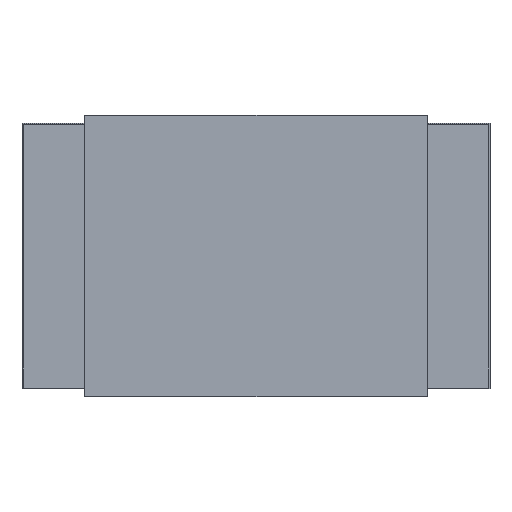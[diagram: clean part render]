
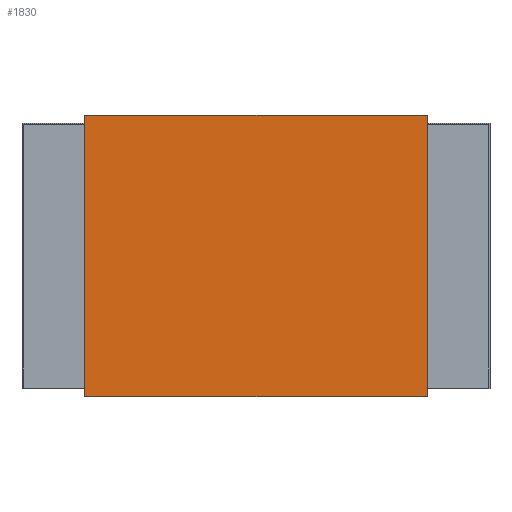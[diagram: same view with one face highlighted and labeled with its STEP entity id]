
A CAD part, left-side view. The second image highlights one B-rep face of the part: STEP entity #1830.
In plain terms, the highlighted planar face has unit normal (-1, 0, 0).
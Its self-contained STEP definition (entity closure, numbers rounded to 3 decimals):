
#1745=CARTESIAN_POINT('',(-1.054,-0.495,0.813));
#1744=VERTEX_POINT('',#1745);
#1763=CARTESIAN_POINT('',(-1.054,0.495,0.813));
#1762=VERTEX_POINT('',#1763);
#1771=EDGE_CURVE('',#1744,#1762,#1776,.T.);
#1776=LINE('',#1745,#1778);
#1778=VECTOR('',#1779,0.991);
#1779=DIRECTION('',(0.0,1.0,0.0));
#1830=ADVANCED_FACE('',(#1836),#1831,.T.);
#1831=PLANE('',#1832);
#1832=AXIS2_PLACEMENT_3D('',#1833,#1834,#1835);
#1833=CARTESIAN_POINT('',(-1.054,0.495,0.0));
#1834=DIRECTION('',(-1.0,0.0,0.0));
#1835=DIRECTION('',(0.,0.,1.));
#1836=FACE_OUTER_BOUND('',#1837,.T.);
#1837=EDGE_LOOP('',(#1838,#1848,#1858,#1868));
#1841=CARTESIAN_POINT('',(-1.054,-0.495,0.0));
#1840=VERTEX_POINT('',#1841);
#1843=CARTESIAN_POINT('',(-1.054,0.495,0.0));
#1842=VERTEX_POINT('',#1843);
#1839=EDGE_CURVE('',#1840,#1842,#1844,.T.);
#1844=LINE('',#1841,#1846);
#1846=VECTOR('',#1847,0.991);
#1847=DIRECTION('',(0.0,1.0,0.0));
#1838=ORIENTED_EDGE('',*,*,#1839,.F.);
#1849=EDGE_CURVE('',#1744,#1840,#1854,.T.);
#1854=LINE('',#1745,#1856);
#1856=VECTOR('',#1857,0.813);
#1857=DIRECTION('',(0.0,0.0,-1.0));
#1848=ORIENTED_EDGE('',*,*,#1849,.F.);
#1858=ORIENTED_EDGE('',*,*,#1771,.T.);
#1869=EDGE_CURVE('',#1842,#1762,#1874,.T.);
#1874=LINE('',#1843,#1876);
#1876=VECTOR('',#1877,0.813);
#1877=DIRECTION('',(0.0,0.0,1.0));
#1868=ORIENTED_EDGE('',*,*,#1869,.F.);
